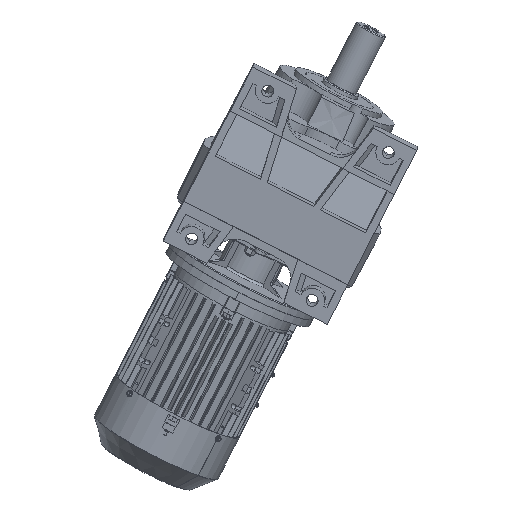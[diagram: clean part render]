
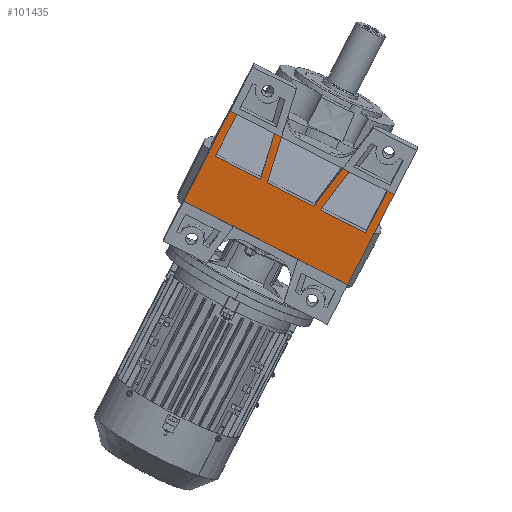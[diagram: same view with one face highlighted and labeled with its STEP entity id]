
A CAD part, front view. The second image highlights one B-rep face of the part: STEP entity #101435.
In plain terms, the highlighted planar face has unit normal (-0.032, -0.991, -0.134) as drawn and (0, -1, 0) by its records, which use the part's own axes.
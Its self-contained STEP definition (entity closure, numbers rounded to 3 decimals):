
#6274 = CARTESIAN_POINT ( 'NONE',  ( 63.69, -223., 118. ) ) ;
#6306 = DIRECTION ( 'NONE',  ( -0.174, 0., -0.985 ) ) ;
#6319 = CARTESIAN_POINT ( 'NONE',  ( 62.389, -223., 30. ) ) ;
#6331 = DIRECTION ( 'NONE',  ( -1., 0., 0. ) ) ;
#6336 = CARTESIAN_POINT ( 'NONE',  ( -170., -223., 30. ) ) ;
#6384 = DIRECTION ( 'NONE',  ( 0.174, 0., 0.985 ) ) ;
#6434 = DIRECTION ( 'NONE',  ( -1., 0., 0. ) ) ;
#6446 = DIRECTION ( 'NONE',  ( 0.174, 0., -0.985 ) ) ;
#6462 = CARTESIAN_POINT ( 'NONE',  ( -77.906, -223., 118. ) ) ;
#6471 = CARTESIAN_POINT ( 'NONE',  ( -170., -223., 30. ) ) ;
#6474 = DIRECTION ( 'NONE',  ( -0.174, 0., 0.985 ) ) ;
#6484 = CARTESIAN_POINT ( 'NONE',  ( -48.173, -223., 30. ) ) ;
#6519 = DIRECTION ( 'NONE',  ( -1., 0., 0. ) ) ;
#6525 = CARTESIAN_POINT ( 'NONE',  ( -170., -223., 30. ) ) ;
#6571 = CARTESIAN_POINT ( 'NONE',  ( -170., -223., 118. ) ) ;
#6597 = DIRECTION ( 'NONE',  ( -1., 0., 0. ) ) ;
#6612 = CARTESIAN_POINT ( 'NONE',  ( -170., -223., 118. ) ) ;
#6638 = DIRECTION ( 'NONE',  ( -1., 0., 0. ) ) ;
#6673 = DIRECTION ( 'NONE',  ( -1., 0., 0. ) ) ;
#6675 = DIRECTION ( 'NONE',  ( -1., 0., 0. ) ) ;
#6684 = CARTESIAN_POINT ( 'NONE',  ( -170., -223., 118. ) ) ;
#6703 = CARTESIAN_POINT ( 'NONE',  ( -170., -223., 118. ) ) ;
#10286 = VECTOR ( 'NONE', #6434, 1000. ) ;
#10296 = VECTOR ( 'NONE', #6446, 1000. ) ;
#10312 = VECTOR ( 'NONE', #6474, 1000. ) ;
#10324 = LINE ( 'NONE', #6471, #10286 ) ;
#10336 = LINE ( 'NONE', #6462, #10296 ) ;
#10384 = LINE ( 'NONE', #6484, #10312 ) ;
#10415 = VECTOR ( 'NONE', #6519, 1000. ) ;
#10444 = LINE ( 'NONE', #6703, #10447 ) ;
#10447 = VECTOR ( 'NONE', #6673, 1000. ) ;
#10480 = VECTOR ( 'NONE', #6638, 1000. ) ;
#10491 = LINE ( 'NONE', #6612, #10480 ) ;
#10551 = LINE ( 'NONE', #6525, #10415 ) ;
#10572 = LINE ( 'NONE', #6571, #10575 ) ;
#10575 = VECTOR ( 'NONE', #6597, 1000. ) ;
#10606 = LINE ( 'NONE', #12921, #10711 ) ;
#10616 = LINE ( 'NONE', #12821, #10717 ) ;
#10622 = VECTOR ( 'NONE', #12895, 1000. ) ;
#10626 = VECTOR ( 'NONE', #12992, 1000. ) ;
#10652 = LINE ( 'NONE', #6684, #10699 ) ;
#10683 = LINE ( 'NONE', #13026, #10626 ) ;
#10699 = VECTOR ( 'NONE', #6675, 1000. ) ;
#10708 = VECTOR ( 'NONE', #12815, 1000. ) ;
#10711 = VECTOR ( 'NONE', #12926, 1000. ) ;
#10717 = VECTOR ( 'NONE', #12906, 1000. ) ;
#10725 = LINE ( 'NONE', #12893, #10622 ) ;
#10731 = LINE ( 'NONE', #12845, #10708 ) ;
#12815 = DIRECTION ( 'NONE',  ( 1., 0., 0. ) ) ;
#12821 = CARTESIAN_POINT ( 'NONE',  ( 156., -223., -71. ) ) ;
#12845 = CARTESIAN_POINT ( 'NONE',  ( -170., -223., -71. ) ) ;
#12893 = CARTESIAN_POINT ( 'NONE',  ( -156., -223., -71. ) ) ;
#12895 = DIRECTION ( 'NONE',  ( 0., 0., 1. ) ) ;
#12906 = DIRECTION ( 'NONE',  ( 0., 0., -1. ) ) ;
#12921 = CARTESIAN_POINT ( 'NONE',  ( 170., -223., -71. ) ) ;
#12926 = DIRECTION ( 'NONE',  ( 0., 0., 1. ) ) ;
#12992 = DIRECTION ( 'NONE',  ( 0., 0., -1. ) ) ;
#13026 = CARTESIAN_POINT ( 'NONE',  ( -170., -223., -71. ) ) ;
#16489 = AXIS2_PLACEMENT_3D ( 'NONE', #136051, #136076, #136088 ) ;
#23746 = EDGE_LOOP ( 'NONE', ( #27912, #27968, #28016, #27958, #27936, #28020, #27947, #27942, #27908, #28029, #28036, #27992, #27973, #27919, #28003, #27888 ) ) ;
#27888 = ORIENTED_EDGE ( 'NONE', *, *, #41685, .T. ) ;
#27908 = ORIENTED_EDGE ( 'NONE', *, *, #41635, .T. ) ;
#27912 = ORIENTED_EDGE ( 'NONE', *, *, #41723, .T. ) ;
#27919 = ORIENTED_EDGE ( 'NONE', *, *, #41715, .T. ) ;
#27936 = ORIENTED_EDGE ( 'NONE', *, *, #41547, .T. ) ;
#27942 = ORIENTED_EDGE ( 'NONE', *, *, #41679, .T. ) ;
#27947 = ORIENTED_EDGE ( 'NONE', *, *, #41647, .T. ) ;
#27958 = ORIENTED_EDGE ( 'NONE', *, *, #41696, .T. ) ;
#27968 = ORIENTED_EDGE ( 'NONE', *, *, #41636, .T. ) ;
#27973 = ORIENTED_EDGE ( 'NONE', *, *, #41735, .T. ) ;
#27992 = ORIENTED_EDGE ( 'NONE', *, *, #41707, .T. ) ;
#28003 = ORIENTED_EDGE ( 'NONE', *, *, #41717, .T. ) ;
#28016 = ORIENTED_EDGE ( 'NONE', *, *, #41582, .T. ) ;
#28020 = ORIENTED_EDGE ( 'NONE', *, *, #41565, .T. ) ;
#28029 = ORIENTED_EDGE ( 'NONE', *, *, #41673, .T. ) ;
#28036 = ORIENTED_EDGE ( 'NONE', *, *, #41731, .T. ) ;
#41547 = EDGE_CURVE ( 'NONE', #140685, #140823, #134640, .T. ) ;
#41565 = EDGE_CURVE ( 'NONE', #140823, #140795, #134754, .T. ) ;
#41582 = EDGE_CURVE ( 'NONE', #140725, #140644, #132312, .T. ) ;
#41635 = EDGE_CURVE ( 'NONE', #140800, #140712, #10336, .T. ) ;
#41636 = EDGE_CURVE ( 'NONE', #140808, #140725, #10324, .T. ) ;
#41647 = EDGE_CURVE ( 'NONE', #140795, #140924, #10384, .T. ) ;
#41673 = EDGE_CURVE ( 'NONE', #140712, #140766, #10551, .T. ) ;
#41679 = EDGE_CURVE ( 'NONE', #140924, #140800, #10572, .T. ) ;
#41685 = EDGE_CURVE ( 'NONE', #140780, #140825, #10491, .T. ) ;
#41696 = EDGE_CURVE ( 'NONE', #140644, #140685, #10444, .T. ) ;
#41707 = EDGE_CURVE ( 'NONE', #140735, #140994, #10652, .T. ) ;
#41715 = EDGE_CURVE ( 'NONE', #140803, #140732, #10731, .T. ) ;
#41717 = EDGE_CURVE ( 'NONE', #140732, #140780, #10606, .T. ) ;
#41723 = EDGE_CURVE ( 'NONE', #140825, #140808, #10616, .T. ) ;
#41731 = EDGE_CURVE ( 'NONE', #140766, #140735, #10725, .T. ) ;
#41735 = EDGE_CURVE ( 'NONE', #140994, #140803, #10683, .T. ) ;
#46658 = FACE_OUTER_BOUND ( 'NONE', #23746, .T. ) ;
#101435 = ADVANCED_FACE ( 'NONE', ( #46658 ), #136058, .T. ) ;
#132312 = LINE ( 'NONE', #6319, #132412 ) ;
#132412 = VECTOR ( 'NONE', #6384, 1000. ) ;
#134294 = CARTESIAN_POINT ( 'NONE',  ( -156., -223., 118. ) ) ;
#134296 = CARTESIAN_POINT ( 'NONE',  ( 170., -223., 118. ) ) ;
#134303 = CARTESIAN_POINT ( 'NONE',  ( 63.69, -223., 118. ) ) ;
#134305 = CARTESIAN_POINT ( 'NONE',  ( -62.389, -223., 30. ) ) ;
#134328 = CARTESIAN_POINT ( 'NONE',  ( 62.389, -223., 30. ) ) ;
#134339 = CARTESIAN_POINT ( 'NONE',  ( 77.906, -223., 118. ) ) ;
#134350 = CARTESIAN_POINT ( 'NONE',  ( -156., -223., 30. ) ) ;
#134373 = CARTESIAN_POINT ( 'NONE',  ( 170., -223., -71. ) ) ;
#134395 = CARTESIAN_POINT ( 'NONE',  ( -170., -223., -71. ) ) ;
#134403 = CARTESIAN_POINT ( 'NONE',  ( 156., -223., 118. ) ) ;
#134418 = CARTESIAN_POINT ( 'NONE',  ( 48.173, -223., 30. ) ) ;
#134451 = CARTESIAN_POINT ( 'NONE',  ( -48.173, -223., 30. ) ) ;
#134456 = CARTESIAN_POINT ( 'NONE',  ( -63.69, -223., 118. ) ) ;
#134496 = CARTESIAN_POINT ( 'NONE',  ( -77.906, -223., 118. ) ) ;
#134497 = CARTESIAN_POINT ( 'NONE',  ( 156., -223., 30. ) ) ;
#134640 = LINE ( 'NONE', #6274, #134731 ) ;
#134731 = VECTOR ( 'NONE', #6306, 1000. ) ;
#134734 = VECTOR ( 'NONE', #6331, 1000. ) ;
#134754 = LINE ( 'NONE', #6336, #134734 ) ;
#136051 = CARTESIAN_POINT ( 'NONE',  ( -170., -223., -71. ) ) ;
#136058 = PLANE ( 'NONE',  #16489 ) ;
#136076 = DIRECTION ( 'NONE',  ( 0., -1., 0. ) ) ;
#136088 = DIRECTION ( 'NONE',  ( 0., 0., -1. ) ) ;
#140644 = VERTEX_POINT ( 'NONE', #134339 ) ;
#140685 = VERTEX_POINT ( 'NONE', #134303 ) ;
#140712 = VERTEX_POINT ( 'NONE', #134305 ) ;
#140725 = VERTEX_POINT ( 'NONE', #134328 ) ;
#140732 = VERTEX_POINT ( 'NONE', #134373 ) ;
#140735 = VERTEX_POINT ( 'NONE', #134294 ) ;
#140766 = VERTEX_POINT ( 'NONE', #134350 ) ;
#140780 = VERTEX_POINT ( 'NONE', #134296 ) ;
#140795 = VERTEX_POINT ( 'NONE', #134451 ) ;
#140800 = VERTEX_POINT ( 'NONE', #134496 ) ;
#140803 = VERTEX_POINT ( 'NONE', #134395 ) ;
#140808 = VERTEX_POINT ( 'NONE', #134497 ) ;
#140823 = VERTEX_POINT ( 'NONE', #134418 ) ;
#140825 = VERTEX_POINT ( 'NONE', #134403 ) ;
#140924 = VERTEX_POINT ( 'NONE', #134456 ) ;
#140994 = VERTEX_POINT ( 'NONE', #143854 ) ;
#143854 = CARTESIAN_POINT ( 'NONE',  ( -170., -223., 118. ) ) ;
